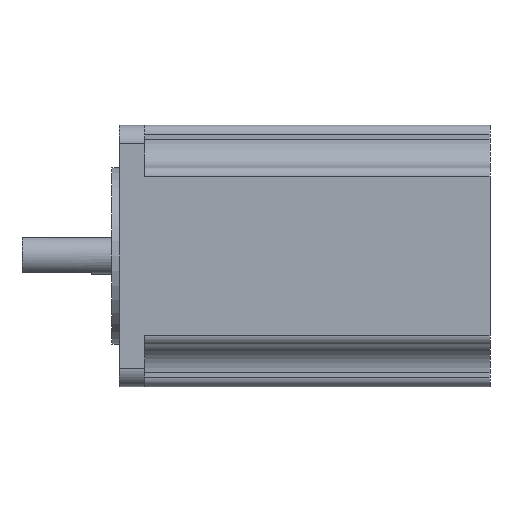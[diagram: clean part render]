
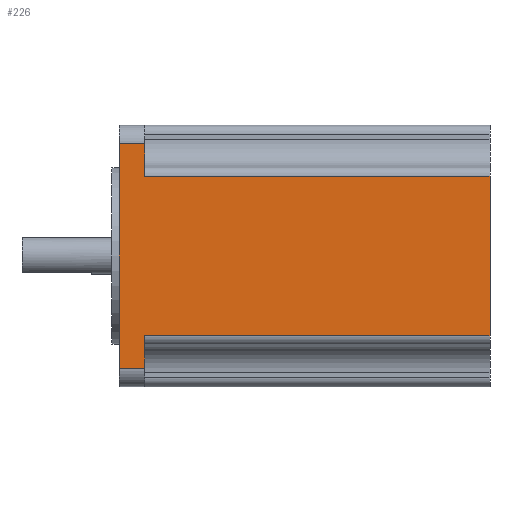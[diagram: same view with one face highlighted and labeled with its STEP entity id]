
A CAD part, left-side view. The second image highlights one B-rep face of the part: STEP entity #226.
In plain terms, the highlighted planar face has unit normal (-1, 0, 0).
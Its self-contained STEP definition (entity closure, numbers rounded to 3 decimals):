
#14 = EDGE_CURVE ( 'NONE', #254, #34, #544, .T. ) ;
#25 = EDGE_CURVE ( 'NONE', #233, #26, #1443, .T. ) ;
#26 = VERTEX_POINT ( 'NONE', #1439 ) ;
#30 = ORIENTED_EDGE ( 'NONE', *, *, #31, .T. ) ;
#31 = EDGE_CURVE ( 'NONE', #26, #32, #1449, .T. ) ;
#32 = VERTEX_POINT ( 'NONE', #1445 ) ;
#34 = VERTEX_POINT ( 'NONE', #1444 ) ;
#189 = EDGE_CURVE ( 'NONE', #246, #34, #1519, .T. ) ;
#226 = ADVANCED_FACE ( 'NONE', ( #1578 ), #1577, .F. ) ;
#227 = ORIENTED_EDGE ( 'NONE', *, *, #14, .F. ) ;
#228 = ORIENTED_EDGE ( 'NONE', *, *, #229, .T. ) ;
#229 = EDGE_CURVE ( 'NONE', #254, #230, #1640, .T. ) ;
#230 = VERTEX_POINT ( 'NONE', #1636 ) ;
#232 = EDGE_CURVE ( 'NONE', #267, #233, #1635, .T. ) ;
#233 = VERTEX_POINT ( 'NONE', #1631 ) ;
#234 = ORIENTED_EDGE ( 'NONE', *, *, #25, .T. ) ;
#236 = ORIENTED_EDGE ( 'NONE', *, *, #237, .F. ) ;
#237 = EDGE_CURVE ( 'NONE', #246, #32, #1630, .T. ) ;
#238 = EDGE_LOOP ( 'NONE', ( #227, #228, #244, #268, #234, #30, #236, #266 ) ) ;
#244 = ORIENTED_EDGE ( 'NONE', *, *, #245, .F. ) ;
#245 = EDGE_CURVE ( 'NONE', #267, #230, #1672, .T. ) ;
#246 = VERTEX_POINT ( 'NONE', #1668 ) ;
#254 = VERTEX_POINT ( 'NONE', #1656 ) ;
#266 = ORIENTED_EDGE ( 'NONE', *, *, #189, .T. ) ;
#267 = VERTEX_POINT ( 'NONE', #1701 ) ;
#268 = ORIENTED_EDGE ( 'NONE', *, *, #232, .T. ) ;
#541 = DIRECTION ( 'NONE',  ( 0., 0., 1. ) ) ;
#542 = VECTOR ( 'NONE', #541, 1000. ) ;
#543 = CARTESIAN_POINT ( 'NONE',  ( 0., 80., 0. ) ) ;
#544 = LINE ( 'NONE', #543, #542 ) ;
#1439 = CARTESIAN_POINT ( 'NONE',  ( 0., 0., -11. ) ) ;
#1440 = DIRECTION ( 'NONE',  ( 0., 0., 1. ) ) ;
#1441 = VECTOR ( 'NONE', #1440, 1000. ) ;
#1442 = CARTESIAN_POINT ( 'NONE',  ( 0., 0., 0. ) ) ;
#1443 = LINE ( 'NONE', #1442, #1441 ) ;
#1444 = CARTESIAN_POINT ( 'NONE',  ( 0., 80., -4. ) ) ;
#1445 = CARTESIAN_POINT ( 'NONE',  ( 0., 74.5, -11. ) ) ;
#1446 = DIRECTION ( 'NONE',  ( 0., 1., 0. ) ) ;
#1447 = VECTOR ( 'NONE', #1446, 1000. ) ;
#1448 = CARTESIAN_POINT ( 'NONE',  ( 0., 80., -11. ) ) ;
#1449 = LINE ( 'NONE', #1448, #1447 ) ;
#1516 = DIRECTION ( 'NONE',  ( 0., 1., 0. ) ) ;
#1517 = VECTOR ( 'NONE', #1516, 1000. ) ;
#1518 = CARTESIAN_POINT ( 'NONE',  ( 0., 80., -4. ) ) ;
#1519 = LINE ( 'NONE', #1518, #1517 ) ;
#1575 = CARTESIAN_POINT ( 'NONE',  ( 0., 80., 0. ) ) ;
#1576 = AXIS2_PLACEMENT_3D ( 'NONE', #1575, #1642, #1641 ) ;
#1577 = PLANE ( 'NONE',  #1576 ) ;
#1578 = FACE_OUTER_BOUND ( 'NONE', #238, .T. ) ;
#1627 = DIRECTION ( 'NONE',  ( 0., 0., -1. ) ) ;
#1628 = VECTOR ( 'NONE', #1627, 1000. ) ;
#1629 = CARTESIAN_POINT ( 'NONE',  ( 0., 74.5, 0. ) ) ;
#1630 = LINE ( 'NONE', #1629, #1628 ) ;
#1631 = CARTESIAN_POINT ( 'NONE',  ( 0., 0., -45.4 ) ) ;
#1632 = DIRECTION ( 'NONE',  ( 0., -1., 0. ) ) ;
#1633 = VECTOR ( 'NONE', #1632, 1000. ) ;
#1634 = CARTESIAN_POINT ( 'NONE',  ( 0., 80., -45.4 ) ) ;
#1635 = LINE ( 'NONE', #1634, #1633 ) ;
#1636 = CARTESIAN_POINT ( 'NONE',  ( 0., 74.5, -52.4 ) ) ;
#1637 = DIRECTION ( 'NONE',  ( 0., -1., 0. ) ) ;
#1638 = VECTOR ( 'NONE', #1637, 1000. ) ;
#1639 = CARTESIAN_POINT ( 'NONE',  ( 0., 80., -52.4 ) ) ;
#1640 = LINE ( 'NONE', #1639, #1638 ) ;
#1641 = DIRECTION ( 'NONE',  ( 0., 0., -1. ) ) ;
#1642 = DIRECTION ( 'NONE',  ( 1., 0., 0. ) ) ;
#1656 = CARTESIAN_POINT ( 'NONE',  ( 0., 80., -52.4 ) ) ;
#1668 = CARTESIAN_POINT ( 'NONE',  ( 0., 74.5, -4. ) ) ;
#1669 = DIRECTION ( 'NONE',  ( 0., 0., -1. ) ) ;
#1670 = VECTOR ( 'NONE', #1669, 1000. ) ;
#1671 = CARTESIAN_POINT ( 'NONE',  ( 0., 74.5, -56.4 ) ) ;
#1672 = LINE ( 'NONE', #1671, #1670 ) ;
#1701 = CARTESIAN_POINT ( 'NONE',  ( 0., 74.5, -45.4 ) ) ;
